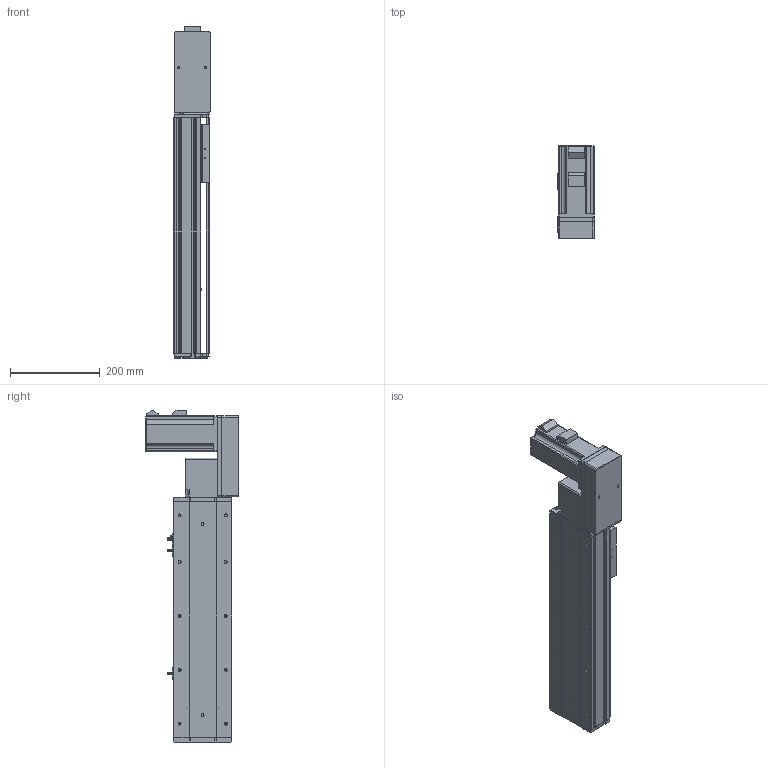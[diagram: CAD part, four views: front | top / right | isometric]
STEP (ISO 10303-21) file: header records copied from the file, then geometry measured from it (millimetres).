
FILE_DESCRIPTION (( 'STEP AP214' ), '1' );
FILE_NAME ('KSD130B-S300-MLB-CM.STEP', '2019-09-19T06:22:18', ( '微软用户' ), ( '微软中国' ), 'SwSTEP 2.0', 'SolidWorks 2014', '' );
FILE_SCHEMA (( 'AUTOMOTIVE_DESIGN' ));
Length unit declared in the file: millimetre
Products named in the file (12): 侂狟750W侜督; 130宽模组保护罩上下左右折-同步带; 130宽模组马达安装板连板左右折同步带; U倰嫖萇EEㄜSX672; 覜茼え100遵圉猾敕; 130宽盖板半封闭同步带-300行程; 130宽马达安装板同步带左-改; 130宽马达安装板同步带半封闭; 130宽同步带安装座半封闭; 130宽端盖同步带半封闭; 130宽底板半封闭同步带-300行程; KSD130B-S300-MLB-CM
Assembly tree (13 placements, depth 2):
  KSD130B-S300-MLB-CM
    130宽底板半封闭同步带-300行程
    130宽端盖同步带半封闭
    130宽同步带安装座半封闭
    130宽马达安装板同步带半封闭
    130宽马达安装板同步带左-改
    130宽盖板半封闭同步带-300行程
    覜茼え100遵圉猾敕
    U倰嫖萇EEㄜSX672  x3
    130宽模组马达安装板连板左右折同步带
    130宽模组保护罩上下左右折-同步带
    侂狟750W侜督
Bounding box: 81 x 206.5 x 740 mm (x, y, z)
Volume: 3222685.4 mm3; surface area: 787654.1 mm2
Topology: 13 solids, 13 shells, 1393 faces, 3872 edges, 2480 vertices
Faces by surface type: cylinder 634, plane 621, cone 122, torus 8, sphere 8
Entity records: 43463 total; most frequent: CARTESIAN_POINT 7671, DIRECTION 6764, ORIENTED_EDGE 6464, EDGE_CURVE 3232, AXIS2_PLACEMENT_3D 2433, VERTEX_POINT 2104, LINE 1898, VECTOR 1898
